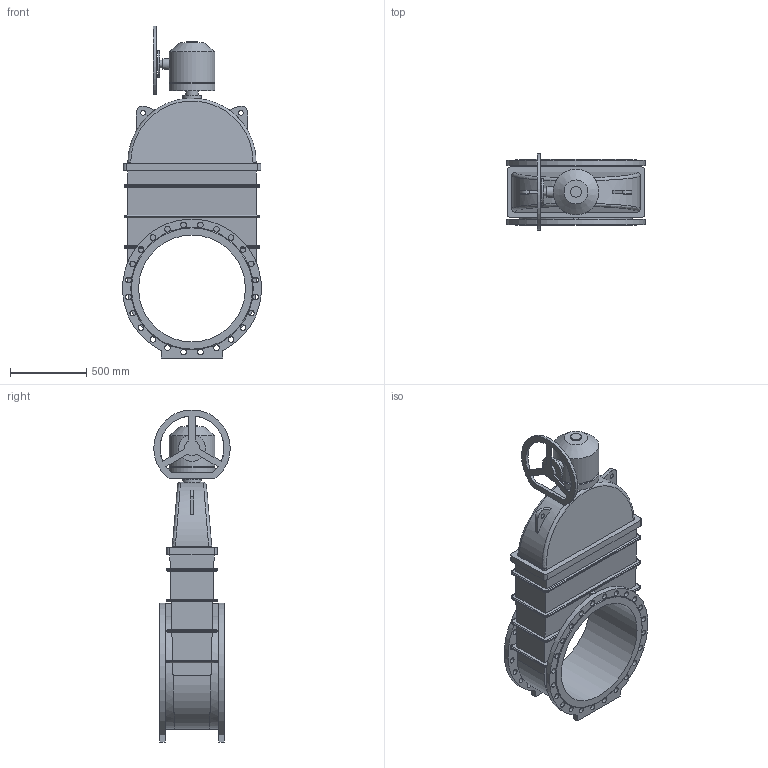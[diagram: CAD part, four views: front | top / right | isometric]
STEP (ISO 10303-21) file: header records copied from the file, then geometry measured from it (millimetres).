
FILE_DESCRIPTION(('STEP AP203'), '1');
FILE_NAME('Çàäâèæêà 47GV.Z DN700 PN10_PN16 + ðåäóêòîð ñ ìàõîâèêîì', '', ('UNSPECIFIED'), ('UNSPECIFIED'), 'ASCON STEP Converter 1.6', 'ASCON Math Kernel', '');
FILE_SCHEMA(('CONFIG_CONTROL_DESIGN'));
Length unit declared in the file: millimetre
Bounding box: 907.39 x 498.92 x 2174.07 mm (x, y, z)
Volume: 268230706 mm3; surface area: 6360050 mm2
Topology: 1 solids, 1 shells, 322 faces, 778 edges, 495 vertices
Faces by surface type: cylinder 153, plane 132, bspline 34, cone 3
Full cylindrical faces by diameter (mm): 14 x8, 18 x8, 30 x3, 37 x48, 50 x1, 70 x2, 80 x1, 100 x1, 120 x1, 175 x1, 280 x1, 300 x2, 700 x1
Entity records: 15558 total; most frequent: CARTESIAN_POINT 5718, DIRECTION 1426, ORIENTED_EDGE 1394, EDGE_CURVE 697, AXIS2_PLACEMENT_3D 554, EDGE_LOOP 548, VERTEX_POINT 495, FACE_BOUND 387
